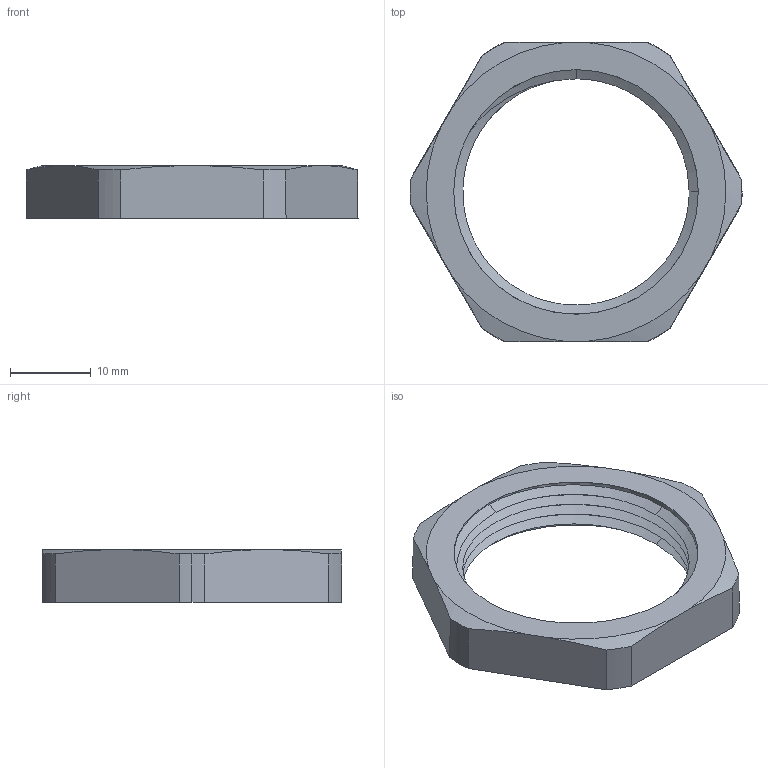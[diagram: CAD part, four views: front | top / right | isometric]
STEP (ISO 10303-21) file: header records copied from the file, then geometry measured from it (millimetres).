
FILE_DESCRIPTION (( 'STEP AP203' ), '1' );
FILE_NAME ('plc-pg-25-00.00.003 Ãàéêà ïðèæèìíàÿ (PG25-Ì30) #clamping nut (PG25-M30)#.STEP', '2021-06-02T07:25:24', ( '' ), ( '' ), 'SwSTEP 2.0', 'SolidWorks 2021', '' );
FILE_SCHEMA (( 'CONFIG_CONTROL_DESIGN' ));
Length unit declared in the file: millimetre
Products named in the file (1): plc-pg-25-00.00.003 Ãàéêà ïðèæèìíàÿ (PG25-Ì30) #clamping nut (PG25-M30)#
Bounding box: 40.99 x 37 x 6.5 mm (x, y, z)
Volume: 3177.9 mm3; surface area: 2719.9 mm2
Topology: 1 solids, 1 shells, 37 faces, 102 edges, 67 vertices
Faces by surface type: cone 21, plane 8, bspline 8
Entity records: 2815 total; most frequent: CARTESIAN_POINT 1901, ORIENTED_EDGE 204, DIRECTION 130, EDGE_CURVE 102, VERTEX_POINT 67, B_SPLINE_CURVE_WITH_KNOTS 56, AXIS2_PLACEMENT_3D 54, EDGE_LOOP 39
